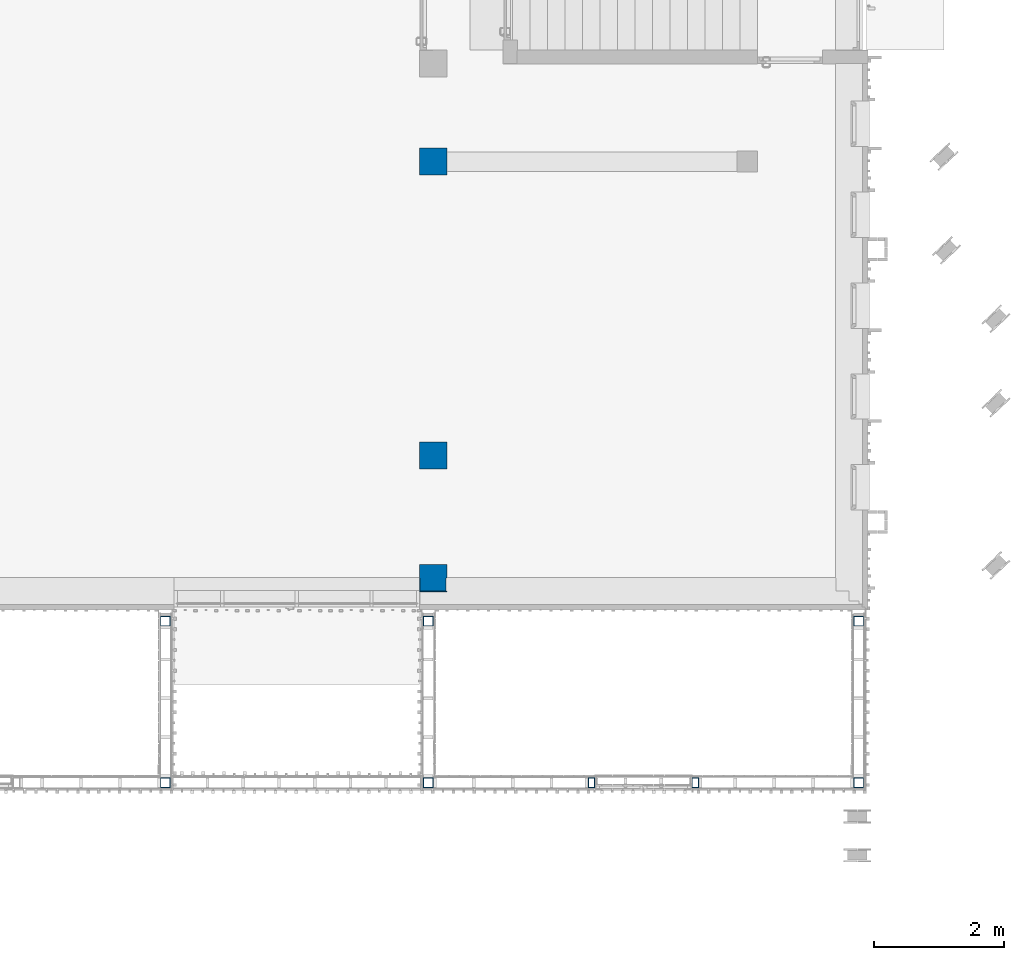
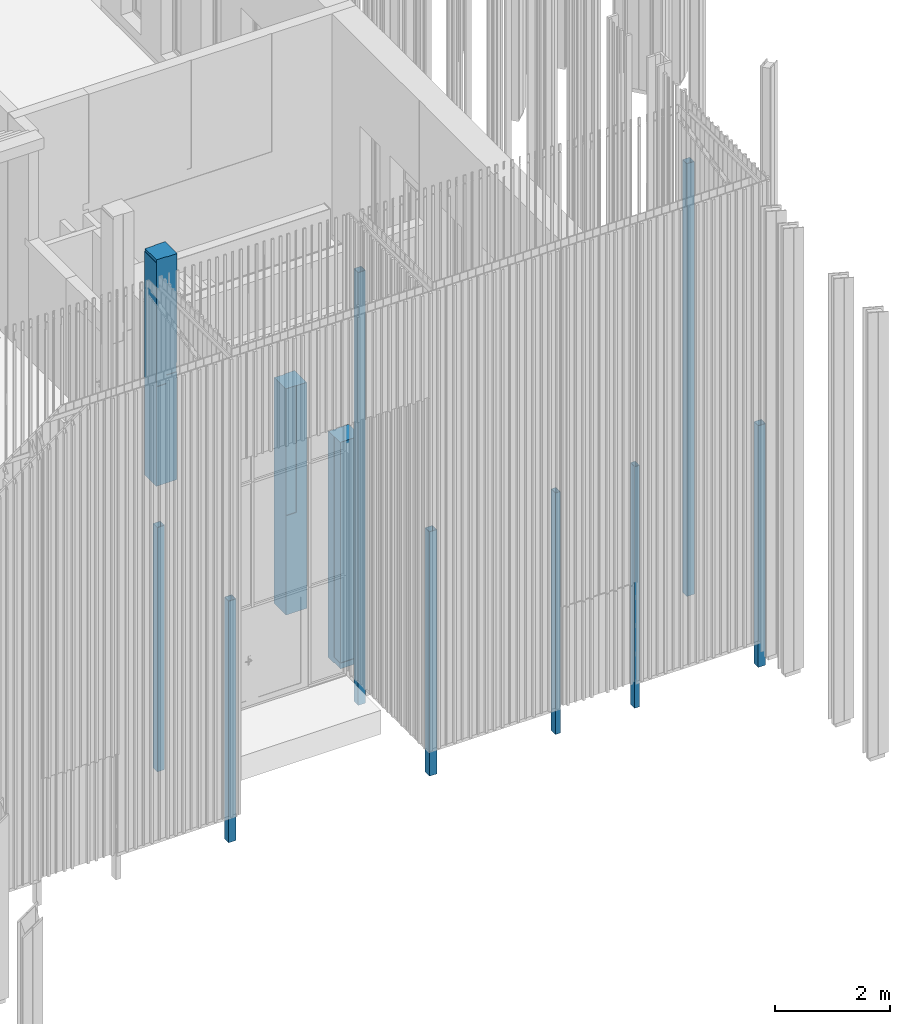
# One storey, part 76 of 390: 11 columns.
"""IFC2X3 building model written with IfcOpenShell, lengths in millimetres."""

from ifc_helpers import new_model, entity, si_unit, converted_unit, derived_unit, money_unit, direction, frame, origin_with_axes, place, context, subcontext, project, spatial, faceted_brep, material, material_list, type_object, element, save


model = new_model("IFC2X3")

# Units and contexts
model_context = context("Model", 3, precision=1e-05, world=origin_with_axes(), true_north=direction((0.0, 1.0)))
body_context = subcontext(model_context, "Body", "Model", "MODEL_VIEW")
ifc_project = project(units=[si_unit("LENGTHUNIT", "METRE", prefix="MILLI"), si_unit("AREAUNIT", "SQUARE_METRE"), si_unit("VOLUMEUNIT", "CUBIC_METRE"), converted_unit("PLANEANGLEUNIT", "DEGREE", entity("IfcPlaneAngleMeasure", 0.0174532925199), si_unit("PLANEANGLEUNIT", "RADIAN"), dimensions=[0, 0, 0, 0, 0, 0, 0]), si_unit("SOLIDANGLEUNIT", "STERADIAN"), money_unit("EUR"), converted_unit("TIMEUNIT", "Year", entity("IfcTimeMeasure", 31556926.0), si_unit("TIMEUNIT", "SECOND"), dimensions=[0, 0, 1, 0, 0, 0, 0]), si_unit("MASSUNIT", "GRAM", prefix="KILO"), si_unit("THERMODYNAMICTEMPERATUREUNIT", "DEGREE_CELSIUS"), si_unit("LUMINOUSINTENSITYUNIT", "LUMEN"), si_unit("ENERGYUNIT", "JOULE", prefix="MEGA"), derived_unit("THERMALCONDUCTANCEUNIT", [(si_unit("POWERUNIT", "WATT"), 1), (si_unit("LENGTHUNIT", "METRE"), -1), (si_unit("THERMODYNAMICTEMPERATUREUNIT", "KELVIN"), -1)]), derived_unit("SPECIFICHEATCAPACITYUNIT", [(si_unit("ENERGYUNIT", "JOULE"), 1), (si_unit("MASSUNIT", "GRAM", prefix="KILO"), -1), (si_unit("THERMODYNAMICTEMPERATUREUNIT", "KELVIN"), -1)]), derived_unit("MASSDENSITYUNIT", [(si_unit("MASSUNIT", "GRAM", prefix="KILO"), 1), (si_unit("VOLUMEUNIT", "CUBIC_METRE"), -1)])], contexts=[model_context])

# Site, building, storey
site_placement = place(None, origin_with_axes())
site = spatial("IfcSite", under=ifc_project, at=site_placement, Name="Site", CompositionType="ELEMENT")
building_placement = place(site_placement, origin_with_axes())
building = spatial("IfcBuilding", under=site, at=building_placement, Name="Building", CompositionType="ELEMENT")
storey_placement = place(building_placement, origin_with_axes())
storey = spatial("IfcBuildingStorey", under=building, at=storey_placement, Name="1 korrus", CompositionType="ELEMENT", Elevation=0.0)

# Columns
ifc_material_1 = material(Name="Betoon - Konstuktsioon")
ifc_material_2 = material(Name="Krohv - Lubjakivi")
ifc_material_list_1 = material_list([ifc_material_1, ifc_material_2])
column_type = type_object("IfcColumnType", Name="Post", PredefinedType="NOTDEFINED")
column_1_placement = place(storey_placement, frame((133089.999991, 45750.0000107, -20.0), z_axis=(0.0, 0.0, 1.0), x_axis=(1.0, -8.97950352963e-09, 0.0)))
element("IfcColumn", 1, at=column_1_placement, inside=storey, type_object=column_type, material=ifc_material_list_1, Name="Betoon - Konstuktsioon", ObjectType="Betoon - Konstuktsioon 400 x 400", context=body_context, shape_type="Brep", body=[
    faceted_brep([(-199.999998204, -200.000001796, 0.0), (200.000001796, -199.999998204, 0.0), (200.000001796, -199.999998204, 4820.0), (-199.999998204, -200.000001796, 4820.0), (-200.000001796, 199.999998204, 0.0), (199.999998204, 200.000001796, 0.0), (199.999998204, 200.000001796, 4820.0), (-200.000001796, 199.999998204, 4820.0)], [[[0, 1, 2, 3]], [[0, 4, 5, 1]], [[1, 5, 6, 2]], [[3, 2, 6, 7]], [[4, 0, 3, 7]], [[5, 4, 7, 6]]]),
    faceted_brep([(-200.000003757, -2.09043804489e-06, 4820.0), (-210.0, -2.18022933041e-06, 4820.0), (-210.0, -0.00010042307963, 119.99999702), (-200.0, -0.000100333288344, 119.99999702), (-210.000001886, 209.999998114, 4820.0), (-200.000009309, 199.999998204, 4820.0), (-200.000009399, 209.999998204, 4820.0), (-209.999998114, -210.000001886, 119.99999702), (-210.000001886, 209.999998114, 0.0), (-210.0, -2.75127121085e-06, 0.0), (-210.0, -2.75127121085e-06, 20.0), (-209.999998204, -200.000002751, 20.0), (-209.999998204, -200.000002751, 0.0), (-209.999998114, -210.000001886, 0.0), (200.000001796, -200.000096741, 119.99999702), (-199.999989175, -200.000100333, 119.99999702), (210.000001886, -209.999998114, 119.99999702), (210.000001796, -200.000096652, 119.99999702), (-199.999988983, -200.000002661, 20.0), (-199.999990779, -2.66147992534e-06, 20.0), (-199.999990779, -2.66147992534e-06, 0.0), (-200.000001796, 199.999998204, 0.0), (-200.000009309, 199.999998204, 2120.0), (-200.000009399, 209.999998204, 2120.0), (-9.39883193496e-06, 210.0, 2120.0), (-9.39883193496e-06, 210.0, 4820.0), (209.999998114, 210.000001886, 4820.0), (209.999998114, 210.000001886, 0.0), (210.0, 1.37846711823e-06, 0.0), (200.0, 1.28866872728e-06, 0.0), (199.999998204, 200.000001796, 0.0), (-199.999988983, -200.000002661, 0.0), (200.000001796, -199.999998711, 0.0), (210.000001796, -199.999998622, 0.0), (210.000001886, -209.999998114, 0.0), (-9.30904775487e-06, 200.0, 4820.0), (-9.30904775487e-06, 200.0, 2120.0), (199.999998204, 200.000001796, 4820.0), (200.0, 1.50136258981e-06, 4820.0), (210.0, 1.59116098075e-06, 4820.0)], [[[0, 1, 2, 3]], [[4, 1, 0, 5, 6]], [[7, 2, 1, 4, 8, 9, 10, 11, 12, 13]], [[14, 15, 3, 2, 7, 16, 17]], [[0, 3, 15, 18, 19, 20, 21, 22, 5]], [[22, 23, 6, 5]], [[6, 23, 24, 25, 26, 27, 8, 4]], [[21, 20, 9, 8, 27, 28, 29, 30]], [[9, 20, 19, 10]], [[10, 19, 18, 11]], [[11, 18, 31, 12]], [[13, 12, 31, 32, 33, 34]], [[34, 16, 7, 13]], [[18, 15, 14, 32, 31]], [[33, 17, 16, 34]], [[14, 17, 33, 32]], [[35, 36, 22, 21, 30, 37]], [[36, 24, 23, 22]], [[36, 35, 25, 24]], [[37, 38, 39, 26, 25, 35]], [[39, 28, 27, 26]], [[39, 38, 29, 28]], [[29, 38, 37, 30]]]),
])
column_2_placement = place(storey_placement, frame((133089.999991, 47640.0000107, -20.0), z_axis=(0.0, 0.0, 1.0), x_axis=(1.0, -8.97950352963e-09, 0.0)))
element("IfcColumn", 2, at=column_2_placement, inside=storey, type_object=column_type, material=ifc_material_list_1, Name="Betoon - Konstuktsioon", ObjectType="Betoon - Konstuktsioon 400 x 400", context=body_context, shape_type="Brep", body=[
    faceted_brep([(-199.999998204, -200.000001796, 0.0), (200.000001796, -199.999998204, 0.0), (200.000001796, -199.999998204, 4820.0), (-199.999998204, -200.000001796, 4820.0), (-200.000001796, 199.999998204, 0.0), (199.999998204, 200.000001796, 0.0), (199.999998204, 200.000001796, 4820.0), (-200.000001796, 199.999998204, 4820.0)], [[[0, 1, 2, 3]], [[0, 4, 5, 1]], [[1, 5, 6, 2]], [[3, 2, 6, 7]], [[4, 0, 3, 7]], [[5, 4, 7, 6]]]),
    faceted_brep([(-199.999998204, -200.000001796, 0.0), (-200.000005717, -200.000001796, 2120.0), (-5.71731106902e-06, -200.0, 2120.0), (-5.71731106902e-06, -200.0, 4820.0), (200.000001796, -199.999998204, 4820.0), (200.000001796, -199.999998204, 0.0), (-200.000001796, 199.999998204, 0.0), (-200.000009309, 199.999998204, 2120.0), (-200.000009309, 199.999998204, 4820.0), (-200.000005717, -200.000001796, 4820.0), (-5.62752688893e-06, -210.0, 2120.0), (-200.000005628, -210.000001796, 2120.0), (-5.62752688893e-06, -210.0, 4820.0), (209.999998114, 210.000001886, 4820.0), (-9.39891720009e-06, 210.0, 4820.0), (-9.30910459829e-06, 200.0, 4820.0), (199.999998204, 200.000001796, 4820.0), (210.000001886, -209.999998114, 4820.0), (199.999998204, 200.000001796, 0.0), (209.999998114, 210.000001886, 0.0), (210.000001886, -209.999998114, 0.0), (-209.999998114, -210.000001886, 0.0), (-210.000001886, 209.999998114, 0.0), (-9.30910459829e-06, 200.0, 2120.0), (-200.000009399, 209.999998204, 2120.0), (-200.000009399, 209.999998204, 4820.0), (-210.000001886, 209.999998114, 4820.0), (-209.999998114, -210.000001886, 4820.0), (-200.000005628, -210.000001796, 4820.0), (-9.39891720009e-06, 210.0, 2120.0)], [[[0, 1, 2, 3, 4, 5]], [[6, 7, 8, 9, 1, 0]], [[10, 2, 1, 11]], [[10, 12, 3, 2]], [[13, 14, 15, 16, 4, 3, 12, 17]], [[4, 16, 18, 5]], [[19, 20, 21, 22], [18, 6, 0, 5]], [[15, 23, 7, 6, 18, 16]], [[7, 24, 25, 8]], [[9, 8, 25, 26, 27, 28]], [[11, 1, 9, 28]], [[10, 11, 28, 27, 21, 20, 17, 12]], [[25, 24, 29, 14, 13, 19, 22, 26]], [[23, 15, 14, 29]], [[13, 17, 20, 19]], [[27, 26, 22, 21]], [[23, 29, 24, 7]]]),
])
ifc_material_list_2 = material_list([ifc_material_1, ifc_material_2, ifc_material_2])
column_3_placement = place(storey_placement, frame((133089.999993, 52170.0000102, -20.0), z_axis=(0.0, 0.0, 1.0), x_axis=(1.0, -8.97950352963e-09, 0.0)))
element("IfcColumn", 3, at=column_3_placement, inside=storey, type_object=column_type, material=ifc_material_list_2, Name="Betoon - Konstuktsioon", ObjectType="Betoon - Konstuktsioon 400 x 400", context=body_context, shape_type="Brep", body=[
    faceted_brep([(-199.999998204, -200.000001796, 0.0), (200.000001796, -199.999998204, 0.0), (200.000001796, -199.999998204, 4820.0), (-199.999998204, -200.000001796, 4820.0), (-200.000001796, 199.999998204, 0.0), (199.999998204, 200.000001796, 0.0), (199.999998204, 200.000001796, 4820.0), (-200.000001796, 199.999998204, 4820.0)], [[[0, 1, 2, 3]], [[0, 4, 5, 1]], [[1, 5, 6, 2]], [[3, 2, 6, 7]], [[4, 0, 3, 7]], [[5, 4, 7, 6]]]),
    faceted_brep([(-210.000001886, 209.999998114, 4765.0), (-199.999996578, 209.999998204, 4765.0), (-199.999999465, 209.999998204, 2120.0), (5.3540816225e-07, 210.0, 2120.0), (-1.05484048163e-05, 210.0, 2300.0), (209.999998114, 210.000001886, 2300.0), (209.999998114, 210.000001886, 0.0), (-210.000001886, 209.999998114, 0.0), (-199.999996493, 199.99999919, 4765.0), (-209.999998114, -210.000001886, 4765.0), (-199.999993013, -210.000001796, 4765.0), (-199.999993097, -200.000001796, 4765.0), (-199.999999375, 199.99999919, 2120.0), (6.2522076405e-07, 200.000000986, 2120.0), (-1.0449639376e-05, 200.000000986, 2300.0), (209.9999973, 150.0, 2300.0), (199.999998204, 200.000001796, 2300.0), (200.000001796, -199.999998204, 2300.0), (-6.50038600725e-06, -200.0, 2300.0), (-6.40167741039e-06, -210.0, 2300.0), (210.000001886, -209.999998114, 2300.0), (210.0, -150.0, 2300.0), (210.000001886, -209.999998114, 0.0), (-209.999998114, -210.000001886, 0.0), (199.999998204, 200.000001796, 0.0), (-200.000001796, 199.999998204, 0.0), (-199.999998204, -200.000001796, 0.0), (200.000001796, -199.999998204, 0.0), (-7.42406314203e-06, -210.0, 2120.0), (-200.000007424, -210.000001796, 2120.0), (-200.000007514, -200.000001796, 2120.0), (-7.51384732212e-06, -200.0, 2120.0)], [[[0, 1, 2, 3, 4, 5, 6, 7]], [[8, 1, 0, 9, 10, 11]], [[1, 8, 12, 2]], [[13, 3, 2, 12]], [[14, 4, 3, 13]], [[15, 5, 4, 14, 16, 17, 18, 19, 20, 21]], [[21, 20, 22, 6, 5, 15]], [[6, 22, 23, 7], [24, 25, 26, 27]], [[9, 0, 7, 23]], [[10, 9, 23, 22, 20, 19, 28, 29]], [[11, 10, 29, 30]], [[8, 11, 30, 26, 25, 12]], [[16, 14, 13, 12, 25, 24]], [[17, 16, 24, 27]], [[18, 17, 27, 26, 30, 31]], [[19, 18, 31, 28]], [[28, 31, 30, 29]]]),
    faceted_brep([(210.000001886, -209.999998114, 2500.0), (209.999998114, 210.000001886, 2500.0), (209.999998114, 210.000001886, 4820.0), (210.000001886, -209.999998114, 4820.0), (-1.05484048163e-05, 210.0, 2500.0), (-6.40167741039e-06, -210.0, 2500.0), (-6.50038600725e-06, -200.0, 2500.0), (200.000001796, -199.999998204, 2500.0), (199.999998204, 200.000001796, 2500.0), (-1.0449639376e-05, 200.000000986, 2500.0), (5.3540816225e-07, 210.0, 4820.0), (200.000001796, -199.999998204, 4820.0), (-7.51384732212e-06, -200.0, 4820.0), (-7.42406314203e-06, -210.0, 4820.0), (6.2522076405e-07, 200.000000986, 4820.0), (199.999998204, 200.000001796, 4820.0)], [[[0, 1, 2, 3]], [[4, 1, 0, 5, 6, 7, 8, 9]], [[1, 4, 10, 2]], [[11, 12, 13, 3, 2, 10, 14, 15]], [[5, 0, 3, 13]], [[6, 5, 13, 12]], [[7, 6, 12, 11]], [[8, 7, 11, 15]], [[9, 8, 15, 14]], [[4, 9, 14, 10]]]),
])
ifc_material_3 = material(Name="Teras (musta värvi)")
for number, where, z_axis, x_axis, name in (
    (4, (133015.000037, 45089.0000099, -500.0), (0.0, 0.0, 1.0), (0.0, -1.0, 0.0), "Post - teras - SHS:150x150x5"),
    (5, (139645.000037, 45089.0000099, -500.0), (0.0, 0.0, 1.0), (0.0, -1.0, 0.0), "Post - teras - SHS:150x150x5"),
):
    element("IfcColumn", number, at=place(storey_placement, frame(where, z_axis=z_axis, x_axis=x_axis)), inside=storey, type_object=column_type, material=ifc_material_3, Name=name, ObjectType="150x150x5", context=body_context, shape_type="Brep", body=[
        faceted_brep([(-75.0, -75.0, 9227.99999763), (-75.0, -75.0, 0.0), (75.0, -75.0, 0.0), (75.0, -75.0, 9227.99999763), (-75.0, 75.0, 9227.99999763), (-75.0, 75.0, 0.0), (75.0, 75.0, 0.0), (-70.0, 70.0, 0.0), (-70.0, -70.0, 0.0), (70.0, -70.0, 0.0), (70.0, 70.0, 0.0), (75.0, 75.0, 9227.99999763), (70.0, -70.0, 9227.99999763), (-70.0, -70.0, 9227.99999763), (-70.0, 70.0, 9227.99999763), (70.0, 70.0, 9227.99999763)], [[[0, 1, 2, 3]], [[4, 5, 1, 0]], [[2, 1, 5, 6], [7, 8, 9, 10]], [[3, 2, 6, 11]], [[4, 0, 3, 11], [12, 13, 14, 15]], [[11, 6, 5, 4]], [[13, 8, 7, 14]], [[12, 9, 8, 13]], [[15, 10, 9, 12]], [[14, 7, 10, 15]]]),
    ])
column_4_placement = place(storey_placement, frame((139645.000037, 42599.0000099, -500.0), z_axis=(0.0, 0.0, 1.0), x_axis=(0.0, -1.0, 0.0)))
element("IfcColumn", 6, at=column_4_placement, inside=storey, type_object=column_type, material=ifc_material_3, Name="Post - teras - SHS:150x150x5", ObjectType="150x150x5", context=body_context, shape_type="Brep", body=[
    faceted_brep([(-75.0, -75.0, 5150.00000001), (-75.0, -75.0, 0.0), (75.0, -75.0, 0.0), (75.0, -75.0, 5150.00000001), (-75.0, 75.0, 5150.00000001), (-75.0, 75.0, 0.0), (75.0, 75.0, 0.0), (-70.0, 70.0, 0.0), (-70.0, -70.0, 0.0), (70.0, -70.0, 0.0), (70.0, 70.0, 0.0), (75.0, 75.0, 5150.00000001), (70.0, -70.0, 5150.00000001), (-70.0, -70.0, 5150.00000001), (-70.0, 70.0, 5150.00000001), (70.0, 70.0, 5150.00000001)], [[[0, 1, 2, 3]], [[4, 5, 1, 0]], [[2, 1, 5, 6], [7, 8, 9, 10]], [[3, 2, 6, 11]], [[4, 0, 3, 11], [12, 13, 14, 15]], [[11, 6, 5, 4]], [[13, 8, 7, 14]], [[12, 9, 8, 13]], [[15, 10, 9, 12]], [[14, 7, 10, 15]]]),
])
column_5_placement = place(storey_placement, frame((133015.000037, 42599.0000099, -500.0), z_axis=(0.0, 0.0, 1.0), x_axis=(0.0, -1.0, 0.0)))
element("IfcColumn", 7, at=column_5_placement, inside=storey, type_object=column_type, material=ifc_material_3, Name="Post - teras - SHS:150x150x5", ObjectType="150x150x5", context=body_context, shape_type="Brep", body=[
    faceted_brep([(-75.0, -75.0, 5210.0), (-75.0, -75.0, 0.0), (75.0, -75.0, 0.0), (75.0, -75.0, 5210.0), (-75.0, 75.0, 5210.0), (-75.0, 75.0, 0.0), (75.0, 75.0, 0.0), (-70.0, 70.0, 0.0), (-70.0, -70.0, 0.0), (70.0, -70.0, 0.0), (70.0, 70.0, 0.0), (75.0, 75.0, 5210.0), (70.0, -70.0, 5210.0), (-70.0, -70.0, 5210.0), (-70.0, 70.0, 5210.0), (70.0, 70.0, 5210.0)], [[[0, 1, 2, 3]], [[4, 5, 1, 0]], [[2, 1, 5, 6], [7, 8, 9, 10]], [[3, 2, 6, 11]], [[4, 0, 3, 11], [12, 13, 14, 15]], [[11, 6, 5, 4]], [[13, 8, 7, 14]], [[12, 9, 8, 13]], [[15, 10, 9, 12]], [[14, 7, 10, 15]]]),
])
column_6_placement = place(storey_placement, frame((128965.002725, 42599.0000099, -500.0), z_axis=(0.0, 0.0, 1.0), x_axis=(0.0, -1.0, 0.0)))
element("IfcColumn", 8, at=column_6_placement, inside=storey, type_object=column_type, material=ifc_material_3, Name="Post - teras - SHS:150x150x5", ObjectType="150x150x5", context=body_context, shape_type="Brep", body=[
    faceted_brep([(-75.0, -75.0, 5150.00000001), (-75.0, -75.0, 0.0), (75.0, -75.0, 0.0), (75.0, -75.0, 5150.00000001), (-75.0, 75.0, 5150.00000001), (-75.0, 75.0, 0.0), (75.0, 75.0, 0.0), (-70.0, 70.0, 0.0), (-70.0, -70.0, 0.0), (70.0, -70.0, 0.0), (70.0, 70.0, 0.0), (75.0, 75.0, 5150.00000001), (70.0, -70.0, 5150.00000001), (-70.0, -70.0, 5150.00000001), (-70.0, 70.0, 5150.00000001), (70.0, 70.0, 5150.00000001)], [[[0, 1, 2, 3]], [[4, 5, 1, 0]], [[2, 1, 5, 6], [7, 8, 9, 10]], [[3, 2, 6, 11]], [[4, 0, 3, 11], [12, 13, 14, 15]], [[11, 6, 5, 4]], [[13, 8, 7, 14]], [[12, 9, 8, 13]], [[15, 10, 9, 12]], [[14, 7, 10, 15]]]),
])
column_7_placement = place(storey_placement, frame((128965.000617, 45089.0000099, -500.0), z_axis=(0.0, 0.0, 1.0), x_axis=(0.0, -1.0, 0.0)))
element("IfcColumn", 9, at=column_7_placement, inside=storey, type_object=column_type, material=ifc_material_3, Name="Post - teras - SHS:150x150x5", ObjectType="150x150x5", context=body_context, shape_type="Brep", body=[
    faceted_brep([(-75.0, -75.0, 5210.0), (-75.0, -75.0, 0.0), (75.0, -75.0, 0.0), (75.0, -75.0, 5210.0), (-75.0, 75.0, 5210.0), (-75.0, 75.0, 0.0), (75.0, 75.0, 0.0), (-70.0, 70.0, 0.0), (-70.0, -70.0, 0.0), (70.0, -70.0, 0.0), (70.0, 70.0, 0.0), (75.0, 75.0, 5210.0), (70.0, -70.0, 5210.0), (-70.0, -70.0, 5210.0), (-70.0, 70.0, 5210.0), (70.0, 70.0, 5210.0)], [[[0, 1, 2, 3]], [[4, 5, 1, 0]], [[2, 1, 5, 6], [7, 8, 9, 10]], [[3, 2, 6, 11]], [[4, 0, 3, 11], [12, 13, 14, 15]], [[11, 6, 5, 4]], [[13, 8, 7, 14]], [[12, 9, 8, 13]], [[15, 10, 9, 12]], [[14, 7, 10, 15]]]),
])
for number, where, z_axis, x_axis, name in (
    (10, (135530.000037, 42599.0000102, -500.0), (0.0, 0.0, 1.0), (-1.0, 0.0, 0.0), "Post - teras - RHS:150x100x5"),
    (11, (137130.000037, 42599.0000102, -500.0), (0.0, 0.0, 1.0), (-1.0, 0.0, 0.0), "Post - teras - RHS:150x100x5"),
):
    element("IfcColumn", number, at=place(storey_placement, frame(where, z_axis=z_axis, x_axis=x_axis)), inside=storey, type_object=column_type, material=ifc_material_3, Name=name, ObjectType="150x100x5", context=body_context, shape_type="Brep", body=[
        faceted_brep([(-50.0, -75.0, 5150.00000001), (-50.0, -75.0, 0.0), (50.0, -75.0, 0.0), (50.0, -75.0, 5150.00000001), (-50.0, 75.0, 5150.00000001), (-50.0, 75.0, 0.0), (50.0, 75.0, 0.0), (-45.0, 70.0, 0.0), (-45.0, -70.0, 0.0), (45.0, -70.0, 0.0), (45.0, 70.0, 0.0), (50.0, 75.0, 5150.00000001), (45.0, -70.0, 5150.00000001), (-45.0, -70.0, 5150.00000001), (-45.0, 70.0, 5150.00000001), (45.0, 70.0, 5150.00000001)], [[[0, 1, 2, 3]], [[4, 5, 1, 0]], [[2, 1, 5, 6], [7, 8, 9, 10]], [[3, 2, 6, 11]], [[4, 0, 3, 11], [12, 13, 14, 15]], [[11, 6, 5, 4]], [[13, 8, 7, 14]], [[12, 9, 8, 13]], [[15, 10, 9, 12]], [[14, 7, 10, 15]]]),
    ])

save(model, "model.ifc")
